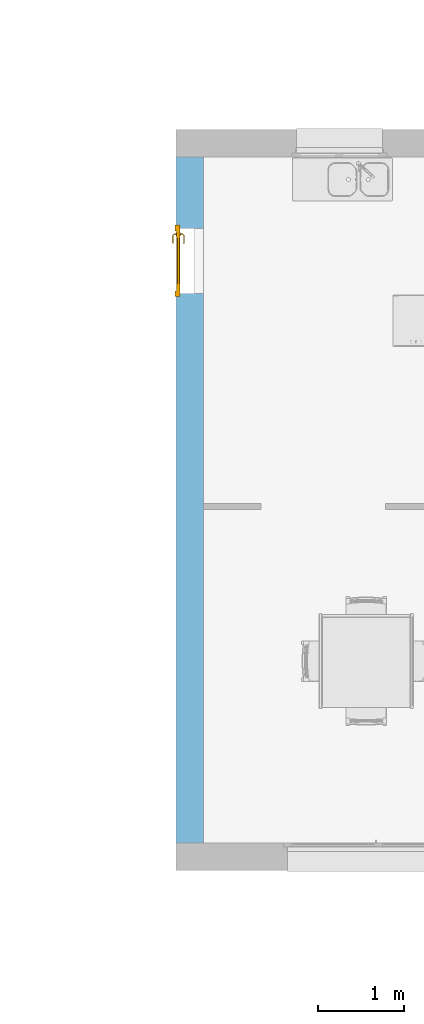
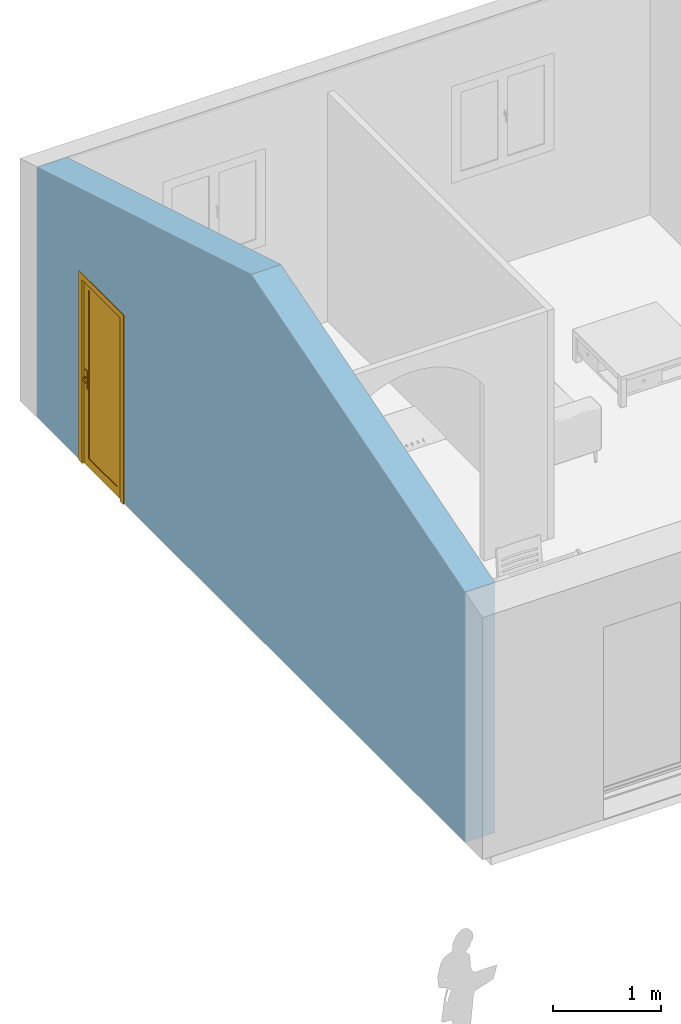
# One storey, part 11 of 18: 1 door, 1 opening, plus 1 element that does not belong to this part.
"""IFC2X3 building model written with IfcOpenShell, lengths in metres."""

from ifc_helpers import new_model, entity, si_unit, converted_unit, derived_unit, direction, frame, frame_2d, origin, place, context, subcontext, project, spatial, polyline, rectangle, extrude, clip, bounded_halfspace, faceted_brep, source, transform, mapped, material, material_list, layer, layer_set, layer_usage, type_object, type_shapes, element, fill, save


model = new_model("IFC2X3")

# Units and contexts
model_context = context("Model", 3, precision=1e-05, world=origin(), true_north=direction((6.12303176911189e-17, 1.0)))
body_context = subcontext(model_context, "Body", "Model", "MODEL_VIEW")
ifc_project = project(units=[si_unit("LENGTHUNIT", "METRE"), si_unit("AREAUNIT", "SQUARE_METRE"), si_unit("VOLUMEUNIT", "CUBIC_METRE"), converted_unit("PLANEANGLEUNIT", "DEGREE", entity("IfcRatioMeasure", 0.0174532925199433), si_unit("PLANEANGLEUNIT", "RADIAN"), dimensions=[0, 0, 0, 0, 0, 0, 0]), si_unit("MASSUNIT", "GRAM", prefix="KILO"), derived_unit("MASSDENSITYUNIT", [(si_unit("MASSUNIT", "GRAM", prefix="KILO"), 1), (si_unit("LENGTHUNIT", "METRE"), -3)]), derived_unit("MOMENTOFINERTIAUNIT", [(si_unit("LENGTHUNIT", "METRE"), 4)]), si_unit("TIMEUNIT", "SECOND"), si_unit("FREQUENCYUNIT", "HERTZ"), si_unit("THERMODYNAMICTEMPERATUREUNIT", "DEGREE_CELSIUS"), derived_unit("THERMALTRANSMITTANCEUNIT", [(si_unit("MASSUNIT", "GRAM", prefix="KILO"), 1), (si_unit("THERMODYNAMICTEMPERATUREUNIT", "KELVIN"), -1), (si_unit("TIMEUNIT", "SECOND"), -3)]), derived_unit("VOLUMETRICFLOWRATEUNIT", [(si_unit("LENGTHUNIT", "METRE"), 3), (si_unit("TIMEUNIT", "SECOND"), -1)]), si_unit("ELECTRICCURRENTUNIT", "AMPERE"), si_unit("ELECTRICVOLTAGEUNIT", "VOLT"), si_unit("POWERUNIT", "WATT"), si_unit("FORCEUNIT", "NEWTON", prefix="KILO"), si_unit("ILLUMINANCEUNIT", "LUX"), si_unit("LUMINOUSFLUXUNIT", "LUMEN"), si_unit("LUMINOUSINTENSITYUNIT", "CANDELA"), derived_unit("USERDEFINED", [(si_unit("MASSUNIT", "GRAM", prefix="KILO"), -1), (si_unit("LENGTHUNIT", "METRE"), -2), (si_unit("TIMEUNIT", "SECOND"), 3), (si_unit("LUMINOUSFLUXUNIT", "LUMEN"), 1)]), derived_unit("LINEARVELOCITYUNIT", [(si_unit("LENGTHUNIT", "METRE"), 1), (si_unit("TIMEUNIT", "SECOND"), -1)]), si_unit("PRESSUREUNIT", "PASCAL"), derived_unit("USERDEFINED", [(si_unit("LENGTHUNIT", "METRE"), -2), (si_unit("MASSUNIT", "GRAM", prefix="KILO"), 1), (si_unit("TIMEUNIT", "SECOND"), -2)]), derived_unit("LINEARFORCEUNIT", [(si_unit("MASSUNIT", "GRAM", prefix="KILO"), 1), (si_unit("LENGTHUNIT", "METRE"), 1), (si_unit("TIMEUNIT", "SECOND"), -2), (si_unit("LENGTHUNIT", "METRE"), -1)]), derived_unit("PLANARFORCEUNIT", [(si_unit("MASSUNIT", "GRAM", prefix="KILO"), 1), (si_unit("LENGTHUNIT", "METRE"), 1), (si_unit("TIMEUNIT", "SECOND"), -2), (si_unit("LENGTHUNIT", "METRE"), -2)])], contexts=[model_context])

# Site, building, storey
site_placement = place(None, origin())
site = spatial("IfcSite", under=ifc_project, at=site_placement, Name="Surface", CompositionType="ELEMENT")
building_placement = place(site_placement, origin())
building = spatial("IfcBuilding", under=site, at=building_placement, CompositionType="ELEMENT")
storey_placement = place(building_placement, origin())
storey = spatial("IfcBuildingStorey", under=building, at=storey_placement, Name="RDC", CompositionType="ELEMENT", Elevation=-1.94916083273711e-14)

# Wall, opening, door
ifc_material_1 = material(Name="Maçonnerie - Enduit")
ifc_layer_1 = layer(ifc_material_1, 0.02)
ifc_material_2 = material(Name="Blocs béton manufacturés")
ifc_layer_2 = layer(ifc_material_2, 0.2)
ifc_material_3 = material(Name="Maçonnerie - Isolant")
ifc_layer_3 = layer(ifc_material_3, 0.1)
ifc_layer_set = layer_set([ifc_layer_1, ifc_layer_2, ifc_layer_3], Name="Mur de base:Ext. Parpaing 20 + Isolant 10")
ifc_layer_usage = layer_usage(ifc_layer_set, "AXIS2", "NEGATIVE", 0.16)
wall_type = type_object("IfcWallType", Name="Mur de base:Ext. Parpaing 20 + Isolant 10", PredefinedType="STANDARD", material=ifc_layer_set)
wall_placement = place(storey_placement, frame((-17.8482926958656, 0.707379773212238, 0.0), z_axis=(0.0, 0.0, 1.0), x_axis=(0.0, 1.0, 0.0)))
wall = element("IfcWallStandardCase", 1, at=wall_placement, inside=storey, type_object=wall_type, material=ifc_layer_usage, Name="Mur de base:Ext. Parpaing 20 + Isolant 10", ObjectType="Mur de base:Ext. Parpaing 20 + Isolant 10", context=body_context, shape_type="Clipping", body=[
    clip(clip(extrude(rectangle(XDim=7.96, YDim=0.320000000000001, at=frame_2d((3.98, -4.85722573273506e-16), x_axis=(-1.0, 0.0))), origin(), (0.0, 0.0, 1.0), 4.04000000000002), bounded_halfspace(frame((7.96, -0.16, 2.84600000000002), z_axis=(0.287347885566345, 0.0, 0.957826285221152), x_axis=(0.0, 1.0, 0.0)), False, frame((7.96, -0.16, 2.84600000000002)), polyline([(0.0, 0.0), (0.0, 0.320000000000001), (-3.98, 0.320000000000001), (-3.98, 0.0), (0.0, 0.0)]))), bounded_halfspace(frame((0.0, 0.160000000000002, 2.84600000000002), z_axis=(-0.287347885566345, 0.0, 0.957826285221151), x_axis=(0.0, -1.0, 0.0)), False, frame((0.0, 0.160000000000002, 2.84600000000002)), polyline([(0.0, 0.0), (0.0, -0.320000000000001), (3.98, -0.320000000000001), (3.98, 0.0), (0.0, 0.0)]))),
])
opening_placement = place(wall_placement, frame((6.34000000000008, 0.45999999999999, 0.0), z_axis=(0.0, 0.0, 1.0), x_axis=(0.0, -1.0, 0.0)))
opening = element("IfcOpeningElement", 2, at=opening_placement, cuts=wall, Name="Mur de base:Ext. Parpaing 20 + Isolant 10", ObjectType="Opening", context=body_context, shape_type="Brep", body=[
    faceted_brep([(0.0, 0.0400000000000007, 2.11000000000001), (0.300000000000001, 0.0400000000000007, 2.11000000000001), (0.300000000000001, 0.789999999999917, 2.11000000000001), (0.0, 0.789999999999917, 2.11000000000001), (0.920000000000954, 0.0399999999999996, 0.0), (0.350000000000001, 0.0400000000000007, 0.0), (0.350000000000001, 0.0, 0.0), (0.300000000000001, 0.0, 0.0), (0.300000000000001, 0.0400000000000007, 0.0), (0.0, 0.0400000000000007, 0.0), (0.0, 0.789999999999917, 0.0), (0.300000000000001, 0.789999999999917, 0.0), (0.300000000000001, 0.829999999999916, 0.0), (0.350000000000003, 0.829999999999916, 0.0), (0.350000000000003, 0.789999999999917, 0.0), (0.920000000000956, 0.789999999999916, 0.0), (0.920000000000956, 0.0399999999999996, 2.11000000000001), (0.920000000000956, 0.789999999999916, 2.11000000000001), (0.350000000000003, 0.0400000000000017, 2.11000000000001), (0.299999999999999, 0.0, 2.15000000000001), (0.300000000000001, 0.829999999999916, 2.15000000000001), (0.350000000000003, 0.829999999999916, 2.15000000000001), (0.350000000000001, 0.0, 2.15000000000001), (0.350000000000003, 0.789999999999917, 2.11000000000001)], [[[0, 1, 2, 3]], [[4, 5, 6, 7, 8, 9, 10, 11, 12, 13, 14, 15]], [[16, 4, 15, 17]], [[3, 2, 11, 10]], [[3, 10, 9, 0]], [[16, 18, 5, 4]], [[11, 2, 1, 8, 7, 19, 20, 12]], [[12, 20, 21, 13]], [[13, 21, 22, 6, 5, 18, 23, 14]], [[19, 22, 21, 20]], [[7, 6, 22, 19]], [[9, 8, 1, 0]], [[15, 14, 23, 17]], [[17, 23, 18, 16]]]),
])
ifc_material_4 = material(Name="PVC - Blanc")
ifc_material_list = material_list([ifc_material_4, ifc_material_4, ifc_material_4])
door_style = type_object("IfcDoorStyle", Name="Panneau Plein - Ouverture ext:0.73m x 2.10m", ConstructionType="NOTDEFINED", OperationType="SINGLE_SWING_RIGHT", ParameterTakesPrecedence=False, Sizeable=False, material=ifc_material_list)
shared_shape = source(origin(), body_context, "Body", "Brep", [
    faceted_brep([(0.10297470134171, 0.355, 1.00778044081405), (0.09899999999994, 0.355, 1.00699999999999), (0.0989999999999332, 0.355, 0.992999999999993), (0.102974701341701, 0.355, 0.992219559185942), (0.107025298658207, 0.355, 0.992219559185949), (0.110999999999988, 0.355, 0.993000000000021), (0.110999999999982, 0.355, 1.00699999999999), (0.107025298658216, 0.355, 1.00778044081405), (0.110999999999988, 0.377485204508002, 0.993000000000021), (0.110999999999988, 0.377485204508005, 1.00699999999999), (0.107025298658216, 0.379131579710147, 1.00778044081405), (0.120838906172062, 0.392945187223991, 1.00778044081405), (0.119161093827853, 0.396995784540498, 1.00778044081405), (0.10297470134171, 0.380809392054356, 1.00778044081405), (0.210684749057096, 0.386467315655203, 1.00778044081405), (0.213548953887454, 0.389331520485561, 1.00778044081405), (0.205884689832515, 0.396995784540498, 1.00778044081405), (0.204206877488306, 0.392945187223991, 1.00778044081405), (0.0989999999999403, 0.3824557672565, 1.00699999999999), (0.09899999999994, 0.382455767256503, 0.992999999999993), (0.102974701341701, 0.38080939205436, 0.992219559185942), (0.119161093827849, 0.396995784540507, 0.992219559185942), (0.120838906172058, 0.392945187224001, 0.992219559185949), (0.107025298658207, 0.379131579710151, 0.992219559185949), (0.21354895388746, 0.389331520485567, 0.992219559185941), (0.210684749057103, 0.386467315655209, 0.992219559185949), (0.20420687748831, 0.392945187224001, 0.992219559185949), (0.205884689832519, 0.396995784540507, 0.992219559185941), (0.122485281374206, 0.388970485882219, 0.993000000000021), (0.122485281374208, 0.388970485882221, 1.00699999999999), (0.11751471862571, 0.400970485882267, 1.00699999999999), (0.117514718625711, 0.40097048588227, 0.992999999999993), (0.162522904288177, 0.388970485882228, 0.993000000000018), (0.202560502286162, 0.388970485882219, 0.993000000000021), (0.202560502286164, 0.388970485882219, 1.00699999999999), (0.162522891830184, 0.388970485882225, 1.00699999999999), (0.162522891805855, 0.395124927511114, 1.00787811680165), (0.207531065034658, 0.400970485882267, 1.00699999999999), (0.167600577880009, 0.400970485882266, 1.00699999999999), (0.207531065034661, 0.400970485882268, 0.992999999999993), (0.157445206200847, 0.400970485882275, 0.992999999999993), (0.162522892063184, 0.395124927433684, 0.992121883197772), (0.20787421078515, 0.383656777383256, 0.993000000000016), (0.21635949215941, 0.392142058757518, 0.992999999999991), (0.216359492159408, 0.392142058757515, 1.00699999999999), (0.207874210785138, 0.383656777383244, 1.00699999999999)], [[[0, 1, 2, 3, 4, 5, 6, 7]], [[6, 5, 8, 9]], [[9, 10, 7, 6]], [[10, 11, 12, 13, 0, 7]], [[14, 15, 16, 17]], [[13, 18, 1, 0]], [[2, 1, 18, 19]], [[19, 20, 3, 2]], [[20, 21, 22, 23, 4, 3]], [[24, 25, 26, 27]], [[23, 8, 5, 4]], [[9, 8, 28, 29]], [[29, 11, 10, 9]], [[12, 30, 18, 13]], [[19, 18, 30, 31]], [[31, 21, 20, 19]], [[22, 28, 8, 23]], [[29, 28, 32, 33, 34, 35]], [[11, 35, 36]], [[16, 37, 38]], [[30, 12, 38]], [[38, 12, 36]], [[36, 35, 17]], [[17, 16, 36]], [[35, 11, 29]], [[34, 17, 35]], [[11, 36, 12]], [[38, 36, 16]], [[31, 30, 38, 37, 39, 40]], [[40, 41, 21]], [[41, 40, 27]], [[21, 31, 40]], [[39, 27, 40]], [[41, 32, 22]], [[22, 21, 41]], [[26, 32, 41]], [[28, 22, 32]], [[32, 26, 33]], [[26, 41, 27]], [[42, 25, 24, 43, 44, 15, 14, 45]], [[34, 33, 42, 45]], [[45, 14, 17, 34]], [[15, 44, 37, 16]], [[39, 37, 44, 43]], [[43, 24, 27, 39]], [[25, 42, 33, 26]]]),
    faceted_brep([(0.102974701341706, 0.305, 1.00778044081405), (0.107025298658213, 0.305, 1.00778044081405), (0.110999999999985, 0.305, 1.00699999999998), (0.110999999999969, 0.305, 0.993000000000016), (0.107025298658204, 0.305, 0.992219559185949), (0.102974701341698, 0.305, 0.992219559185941), (0.0989999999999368, 0.305, 0.992999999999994), (0.0989999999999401, 0.305, 1.00699999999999), (0.0989999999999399, 0.277349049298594, 1.00699999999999), (0.102974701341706, 0.278995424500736, 1.00778044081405), (0.119023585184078, 0.262946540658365, 1.00778044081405), (0.120701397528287, 0.266997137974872, 1.00778044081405), (0.107025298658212, 0.280673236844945, 1.00778044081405), (0.213521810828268, 0.270610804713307, 1.00778044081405), (0.21065760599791, 0.273475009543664, 1.00778044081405), (0.204179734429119, 0.266997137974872, 1.00778044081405), (0.205857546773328, 0.262946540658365, 1.00778044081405), (0.110999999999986, 0.28231961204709, 1.00699999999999), (0.110999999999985, 0.282319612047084, 0.993000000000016), (0.107025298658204, 0.280673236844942, 0.992219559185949), (0.120701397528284, 0.266997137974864, 0.992219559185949), (0.119023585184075, 0.262946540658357, 0.992219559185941), (0.102974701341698, 0.278995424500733, 0.992219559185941), (0.210657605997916, 0.273475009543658, 0.992219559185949), (0.213521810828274, 0.270610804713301, 0.992219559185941), (0.205857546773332, 0.262946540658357, 0.992219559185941), (0.204179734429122, 0.266997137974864, 0.992219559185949), (0.0989999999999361, 0.277349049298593, 0.992999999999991), (0.117377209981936, 0.258971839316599, 1.00699999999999), (0.122347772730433, 0.270971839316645, 1.00699999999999), (0.122347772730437, 0.27097183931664, 0.993000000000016), (0.117377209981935, 0.258971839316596, 0.992999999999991), (0.157307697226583, 0.258971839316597, 1.00699999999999), (0.162440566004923, 0.2648171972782, 1.00787811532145), (0.207503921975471, 0.258971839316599, 1.00699999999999), (0.162440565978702, 0.270971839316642, 1.00699999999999), (0.202533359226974, 0.270971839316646, 1.00699999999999), (0.202533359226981, 0.270971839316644, 0.993000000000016), (0.162440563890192, 0.270971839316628, 0.993000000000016), (0.162440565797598, 0.264817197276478, 0.992121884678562), (0.207503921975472, 0.258971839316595, 0.992999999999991), (0.167573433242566, 0.258971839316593, 0.992999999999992), (0.207847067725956, 0.276285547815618, 1.00699999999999), (0.216332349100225, 0.26780026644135, 1.00699999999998), (0.216332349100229, 0.267800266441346, 0.992999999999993), (0.207847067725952, 0.276285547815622, 0.993000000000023)], [[[0, 1, 2, 3, 4, 5, 6, 7]], [[8, 9, 0, 7]], [[9, 10, 11, 12, 1, 0]], [[13, 14, 15, 16]], [[12, 17, 2, 1]], [[3, 2, 17, 18]], [[18, 19, 4, 3]], [[19, 20, 21, 22, 5, 4]], [[23, 24, 25, 26]], [[22, 27, 6, 5]], [[7, 6, 27, 8]], [[28, 10, 9, 8]], [[11, 29, 17, 12]], [[18, 17, 29, 30]], [[30, 20, 19, 18]], [[21, 31, 27, 22]], [[8, 27, 31, 28]], [[32, 33, 10]], [[33, 32, 16]], [[10, 28, 32]], [[34, 16, 32]], [[33, 35, 11]], [[11, 10, 33]], [[15, 35, 33]], [[29, 11, 35]], [[35, 15, 36]], [[15, 33, 16]], [[30, 29, 35, 36, 37, 38]], [[20, 38, 39]], [[25, 40, 41]], [[31, 21, 41]], [[41, 21, 39]], [[39, 38, 26]], [[26, 25, 39]], [[38, 20, 30]], [[37, 26, 38]], [[20, 39, 21]], [[41, 39, 25]], [[28, 31, 41, 40, 34, 32]], [[42, 14, 13, 43, 44, 24, 23, 45]], [[43, 13, 16, 34]], [[14, 42, 36, 15]], [[37, 36, 42, 45]], [[45, 23, 26, 37]], [[24, 44, 40, 25]], [[34, 40, 44, 43]]]),
    faceted_brep([(0.115352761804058, 0.35, 0.866003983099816), (0.124999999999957, 0.35, 0.870000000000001), (0.124999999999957, 0.35, 1.08), (0.115352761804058, 0.35, 1.08399601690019), (0.104999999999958, 0.35, 1.08535898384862), (0.094647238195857, 0.35, 1.08399601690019), (0.0849999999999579, 0.35, 1.08), (0.0849999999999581, 0.35, 0.870000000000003), (0.0946472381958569, 0.35, 0.866003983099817), (0.104999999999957, 0.35, 0.864641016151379), (0.115352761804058, 0.355, 1.08399601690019), (0.124999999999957, 0.355, 1.08), (0.124999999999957, 0.355, 0.870000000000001), (0.115352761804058, 0.355, 0.866003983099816), (0.104999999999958, 0.355, 0.864641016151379), (0.094647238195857, 0.355, 0.866003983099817), (0.0849999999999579, 0.355, 0.870000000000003), (0.084999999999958, 0.355, 1.08), (0.094647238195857, 0.355, 1.08399601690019), (0.104999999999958, 0.355, 1.08535898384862)], [[[0, 1, 2, 3, 4, 5, 6, 7, 8, 9]], [[10, 11, 12, 13, 14, 15, 16, 17, 18, 19]], [[11, 10, 3, 2]], [[3, 10, 19, 4]], [[19, 18, 5, 4]], [[18, 17, 6, 5]], [[7, 6, 17, 16]], [[16, 15, 8, 7]], [[8, 15, 14, 9]], [[14, 13, 0, 9]], [[13, 12, 1, 0]], [[2, 1, 12, 11]]]),
    faceted_brep([(0.115352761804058, 0.305, 0.866003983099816), (0.124999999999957, 0.305, 0.870000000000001), (0.124999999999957, 0.305, 1.08), (0.115352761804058, 0.305, 1.08399601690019), (0.104999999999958, 0.305, 1.08535898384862), (0.094647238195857, 0.305, 1.08399601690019), (0.0849999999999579, 0.305, 1.08), (0.0849999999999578, 0.305, 0.870000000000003), (0.0946472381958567, 0.305, 0.866003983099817), (0.104999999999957, 0.305, 0.864641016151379), (0.115352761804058, 0.31, 1.08399601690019), (0.124999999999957, 0.31, 1.08), (0.124999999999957, 0.31, 0.870000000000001), (0.115352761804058, 0.31, 0.866003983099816), (0.104999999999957, 0.31, 0.864641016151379), (0.0946472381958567, 0.31, 0.866003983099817), (0.0849999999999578, 0.31, 0.870000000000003), (0.0849999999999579, 0.31, 1.08), (0.094647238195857, 0.31, 1.08399601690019), (0.104999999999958, 0.31, 1.08535898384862)], [[[0, 1, 2, 3, 4, 5, 6, 7, 8, 9]], [[10, 11, 12, 13, 14, 15, 16, 17, 18, 19]], [[16, 15, 8, 7]], [[8, 15, 14, 9]], [[14, 13, 0, 9]], [[13, 12, 1, 0]], [[2, 1, 12, 11]], [[11, 10, 3, 2]], [[3, 10, 19, 4]], [[19, 18, 5, 4]], [[18, 17, 6, 5]], [[7, 6, 17, 16]]]),
    faceted_brep([(0.0, 0.29, 0.0), (0.0, 0.35, 0.0), (0.0499999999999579, 0.35, 0.0), (0.0499999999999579, 0.31, 0.0), (0.0649999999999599, 0.31, 0.0), (0.0649999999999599, 0.29, 0.0), (0.0, 0.29, 2.15000000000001), (0.0, 0.35, 2.15000000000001), (0.829999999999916, 0.35, 2.15000000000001), (0.829999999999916, 0.35, 0.0), (0.779999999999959, 0.35, 0.0), (0.779999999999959, 0.35, 2.10000000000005), (0.049999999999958, 0.35, 2.10000000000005), (0.049999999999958, 0.31, 2.10000000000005), (0.779999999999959, 0.31, 2.10000000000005), (0.779999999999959, 0.31, 0.0), (0.764999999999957, 0.31, 0.0), (0.764999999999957, 0.31, 2.08500000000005), (0.06499999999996, 0.31, 2.08500000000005), (0.06499999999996, 0.29, 2.08500000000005), (0.764999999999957, 0.29, 2.08500000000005), (0.764999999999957, 0.29, 0.0), (0.829999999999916, 0.29, 0.0), (0.829999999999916, 0.29, 2.15000000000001)], [[[0, 1, 2, 3, 4, 5]], [[1, 0, 6, 7]], [[2, 1, 7, 8, 9, 10, 11, 12]], [[3, 2, 12, 13]], [[4, 3, 13, 14, 15, 16, 17, 18]], [[5, 4, 18, 19]], [[0, 5, 19, 20, 21, 22, 23, 6]], [[9, 8, 23, 22]], [[10, 9, 22, 21, 16, 15]], [[11, 10, 15, 14]], [[17, 16, 21, 20]], [[7, 6, 23, 8]], [[12, 11, 14, 13]], [[18, 17, 20, 19]]]),
    faceted_brep([(0.049999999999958, 0.35, 2.10000000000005), (0.77999999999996, 0.35, 2.10000000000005), (0.77999999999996, 0.35, 0.0), (0.0499999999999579, 0.35, 0.0), (0.150000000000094, 0.35, 2.01000000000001), (0.150000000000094, 0.35, 0.1), (0.680000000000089, 0.35, 0.1), (0.680000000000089, 0.35, 2.01000000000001), (0.049999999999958, 0.31, 2.10000000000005), (0.0499999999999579, 0.31, 0.0), (0.77999999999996, 0.31, 0.0), (0.77999999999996, 0.31, 2.10000000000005), (0.680000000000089, 0.31, 2.01000000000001), (0.680000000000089, 0.31, 0.1), (0.150000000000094, 0.31, 0.1), (0.150000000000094, 0.31, 2.01000000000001), (0.150000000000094, 0.342, 2.01000000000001), (0.680000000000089, 0.342, 2.01000000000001), (0.680000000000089, 0.342, 0.1), (0.150000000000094, 0.342, 0.1), (0.680000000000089, 0.318, 2.01000000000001), (0.150000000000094, 0.318, 2.01000000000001), (0.150000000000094, 0.318, 0.1), (0.680000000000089, 0.318, 0.1)], [[[0, 1, 2, 3], [4, 5, 6, 7]], [[8, 9, 10, 11], [12, 13, 14, 15]], [[1, 0, 8, 11]], [[2, 1, 11, 10]], [[3, 2, 10, 9]], [[0, 3, 9, 8]], [[16, 17, 18, 19]], [[16, 19, 5, 4]], [[19, 18, 6, 5]], [[18, 17, 7, 6]], [[17, 16, 4, 7]], [[20, 21, 22, 23]], [[20, 23, 13, 12]], [[23, 22, 14, 13]], [[22, 21, 15, 14]], [[21, 20, 12, 15]]]),
])
type_shapes(door_style, [shared_shape])
door_placement = place(opening_placement, frame((0.0, 0.829999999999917, 0.0), z_axis=(0.0, 0.0, 1.0), x_axis=(0.0, -1.0, 0.0)))
door = element("IfcDoor", 3, at=door_placement, inside=storey, type_object=door_style, material=ifc_material_4, Name="Panneau Plein - Ouverture ext:0.73m x 2.10m", ObjectType="Panneau Plein - Ouverture ext:0.73m x 2.10m", OverallHeight=2.15000000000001, OverallWidth=0.829999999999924, context=body_context, shape_type="MappedRepresentation", body=[
    mapped(shared_shape, transform((0.0, 0.0, 0.0), scale=1.0)),
])
fill(opening, door)

save(model, "model.ifc")
